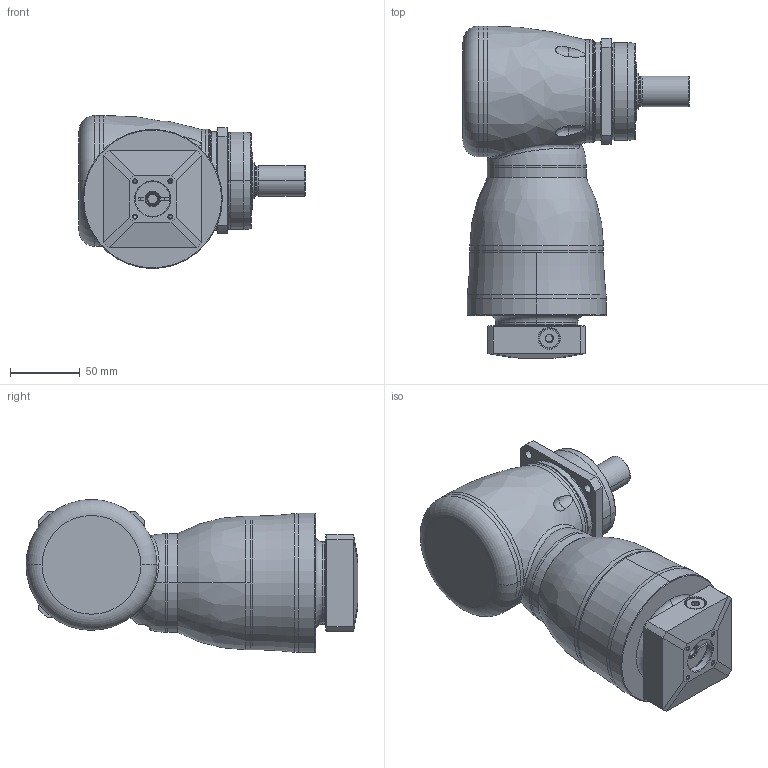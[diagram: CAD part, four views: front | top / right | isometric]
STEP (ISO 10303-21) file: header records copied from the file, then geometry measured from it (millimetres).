
FILE_DESCRIPTION((''),'2;1');
FILE_NAME('KF075_2ST_8-P0409100101_ASM','2016-06-24T',('d01943'),(''),'PRO/ENGINEER BY PARAMETRIC TECHNOLOGY CORPORATION, 2008410','PRO/ENGINEER BY PARAMETRIC TECHNOLOGY CORPORATION, 2008410','');
FILE_SCHEMA(('CONFIG_CONTROL_DESIGN'));
Length unit declared in the file: millimetre
Products named in the file (11): P1008300002; P1804300001; P0915300001; P1315300001; P1007300001; P1317300001; P0409100101; P0503100005; P0912200001; 21711410012; KF075_2ST_8-P0409100101_ASM
Assembly tree (10 placements, depth 2):
  KF075_2ST_8-P0409100101_ASM
    P1008300002
    P1804300001
    P0915300001
    P1315300001
    P1007300001
    P1317300001
    P0409100101
    P0503100005
    P0912200001
    21711410012
Bounding box: 162.5 x 238.5 x 110 mm (x, y, z)
Volume: 1258837.8 mm3; surface area: 192444.3 mm2
Topology: 11 solids, 11 shells, 457 faces, 1065 edges, 641 vertices
Faces by surface type: cylinder 147, cone 100, plane 86, torus 72, bspline 50, sphere 2
Entity records: 20983 total; most frequent: CARTESIAN_POINT 10523, DIRECTION 2248, ORIENTED_EDGE 2084, EDGE_CURVE 1042, AXIS2_PLACEMENT_3D 966, VERTEX_POINT 634, CIRCLE 538, EDGE_LOOP 518
